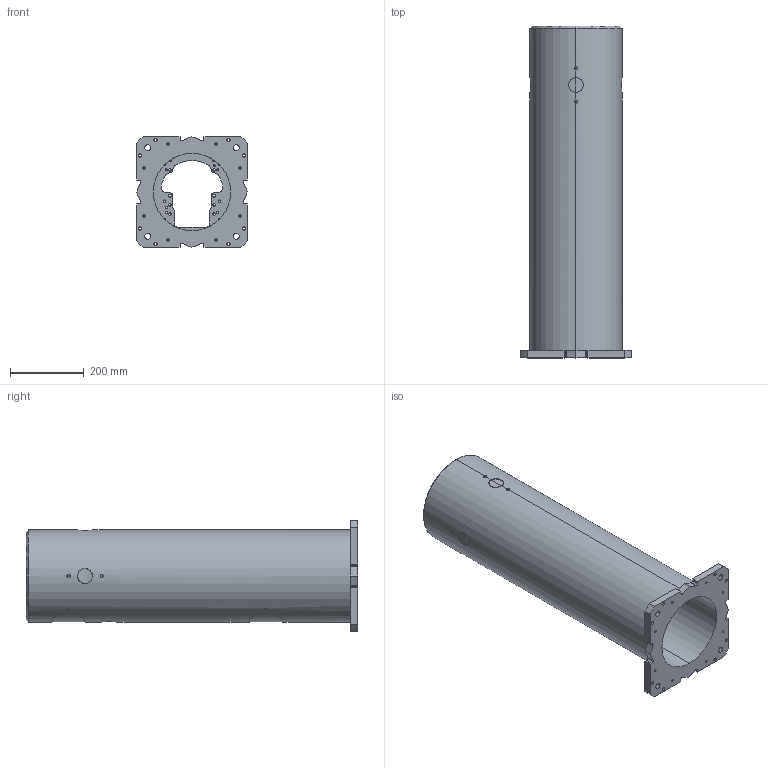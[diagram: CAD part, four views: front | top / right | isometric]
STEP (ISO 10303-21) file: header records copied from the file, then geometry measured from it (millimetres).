
FILE_DESCRIPTION (( 'STEP AP214' ), '1' );
FILE_NAME ('A-900.STEP', '2025-09-19T11:53:22', ( '' ), ( '' ), 'SwSTEP 2.0', 'SolidWorks 2022', '' );
FILE_SCHEMA (( 'AUTOMOTIVE_DESIGN' ));
Length unit declared in the file: millimetre
Products named in the file (1): A-900
Bounding box: 300 x 900 x 300 mm (x, y, z)
Volume: 13944453.2 mm3; surface area: 1458037.3 mm2
Topology: 1 solids, 1 shells, 252 faces, 720 edges, 474 vertices
Faces by surface type: cylinder 183, plane 43, bspline 24, cone 2
Entity records: 16037 total; most frequent: CARTESIAN_POINT 8419, ORIENTED_EDGE 1440, DIRECTION 1322, EDGE_CURVE 720, AXIS2_PLACEMENT_3D 527, VERTEX_POINT 474, EDGE_LOOP 346, CIRCLE 298
